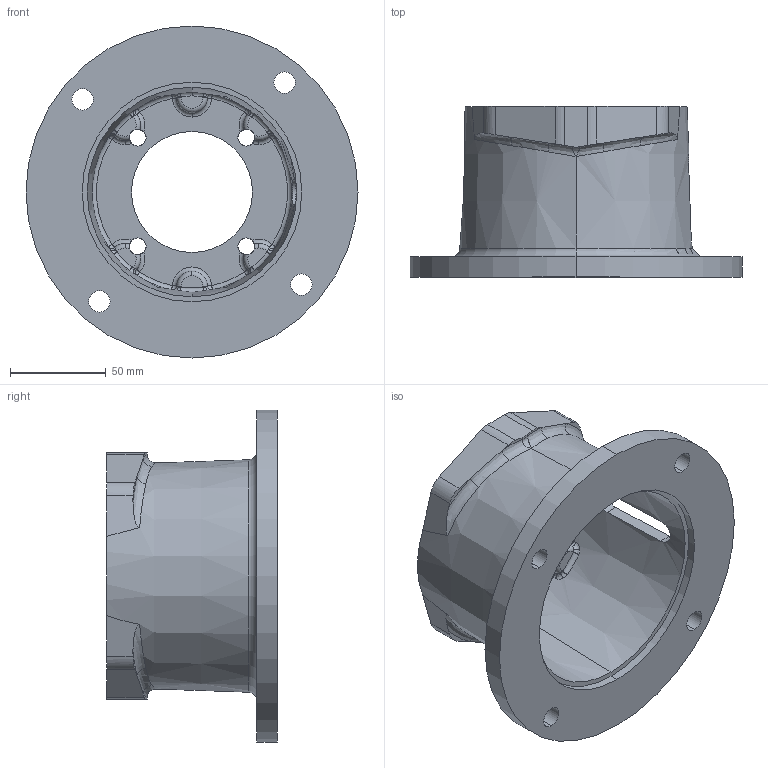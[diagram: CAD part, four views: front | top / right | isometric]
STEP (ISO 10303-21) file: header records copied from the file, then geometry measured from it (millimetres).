
FILE_DESCRIPTION (( 'STEP AP203' ), '1' );
FILE_NAME ('M0563563MS.STEP', '2015-01-19T15:28:28', ( '' ), ( '' ), 'SwSTEP 2.0', 'SolidWorks 2014', '' );
FILE_SCHEMA (( 'CONFIG_CONTROL_DESIGN' ));
Length unit declared in the file: inch
Products named in the file (1): M0563563MS
Bounding box: 172.97 x 88.9 x 172.97 mm (x, y, z)
Volume: 402170.8 mm3; surface area: 104826.5 mm2
Topology: 1 solids, 1 shells, 219 faces, 569 edges, 336 vertices
Faces by surface type: torus 54, bspline 50, cylinder 46, plane 31, sphere 24, cone 14
Entity records: 8920 total; most frequent: CARTESIAN_POINT 3826, ORIENTED_EDGE 1110, DIRECTION 1042, EDGE_CURVE 555, AXIS2_PLACEMENT_3D 475, VERTEX_POINT 336, CIRCLE 305, EDGE_LOOP 237
